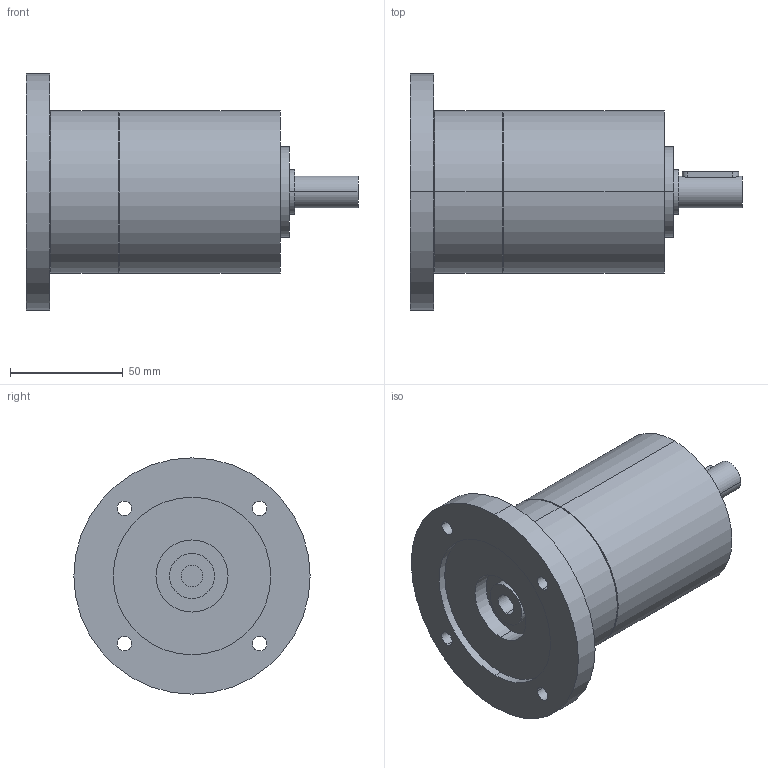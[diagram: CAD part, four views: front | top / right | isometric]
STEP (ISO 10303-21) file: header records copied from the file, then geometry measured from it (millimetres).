
FILE_DESCRIPTION(('CoCreate Modeling STEP Export'),'2;1');
FILE_NAME('GPT75_ig-9-12-16-20-25-28-35-40-50-70-100_14_B14T_9.52_P05.stp','2014-08-27T13:24:42',(''),(''),'CoCreate Modeling STEP processor for AP214 (Solid Model)','CoCreate Modeling 16.00C 25-Feb-2009 (C) Parametric Technology GmbH','');
FILE_SCHEMA(('AUTOMOTIVE_DESIGN { 1 0 10303 214 1 1 1 1 }'));
Length unit declared in the file: millimetre
Products named in the file (2): GPT75_ig-9-12-16-20-25-28-35-40-50-70-100_14_B14T_9.52_P05
Assembly tree (1 placements, depth 2):
  GPT75_ig-9-12-16-20-25-28-35-40-50-70-100_14_B14T_9.52_P05
    GPT75_ig-9-12-16-20-25-28-35-40-50-70-100_14_B14T_9.52_P05
Bounding box: 147.5 x 105 x 105 mm (x, y, z)
Volume: 495879.2 mm3; surface area: 50364.2 mm2
Topology: 1 solids, 1 shells, 63 faces, 150 edges, 103 vertices
Faces by surface type: cylinder 40, plane 19, cone 4
Entity records: 1954 total; most frequent: CARTESIAN_POINT 627, ORIENTED_EDGE 300, DIRECTION 222, EDGE_CURVE 150, VERTEX_POINT 103, AXIS2_PLACEMENT_3D 86, EDGE_LOOP 85, FACE_OUTER_BOUND 63
